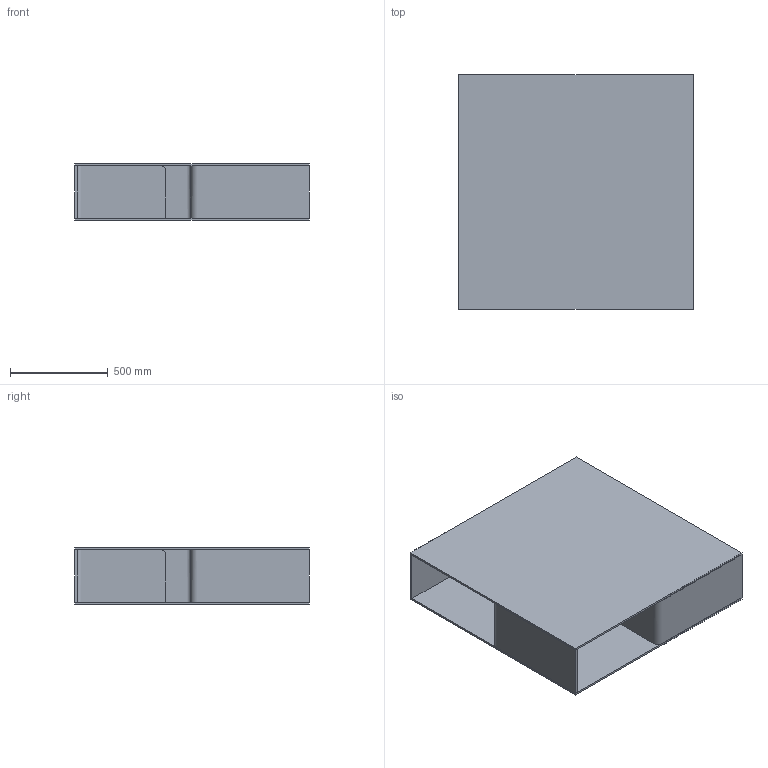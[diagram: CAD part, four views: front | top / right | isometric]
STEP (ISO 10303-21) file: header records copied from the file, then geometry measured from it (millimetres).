
FILE_DESCRIPTION(/* description */ (''),/* implementation_level */ '2;1');
FILE_NAME(/* name */ '204698 - quadra 120x120',/* time_stamp */ '2014-07-31T17:53:21+02:00',/* author */ (''),/* organization */ (''),/* preprocessor_version */ 'ST-DEVELOPER v10',/* originating_system */ '',/* authorisation */ '');
FILE_SCHEMA (('CONFIG_CONTROL_DESIGN'));
Length unit declared in the file: millimetre
Products named in the file (1): 1
Bounding box: 1200 x 1200 x 290 mm (x, y, z)
Volume: 43047192.4 mm3; surface area: 8251145 mm2
Topology: 6 solids, 6 shells, 40 faces, 84 edges, 56 vertices
Faces by surface type: plane 28, bspline 12
Entity records: 1184 total; most frequent: CARTESIAN_POINT 518, ORIENTED_EDGE 168, EDGE_CURVE 84, VERTEX_POINT 56, B_SPLINE_CURVE_WITH_KNOTS 52, ADVANCED_FACE 40, FACE_OUTER_BOUND 40, EDGE_LOOP 40
